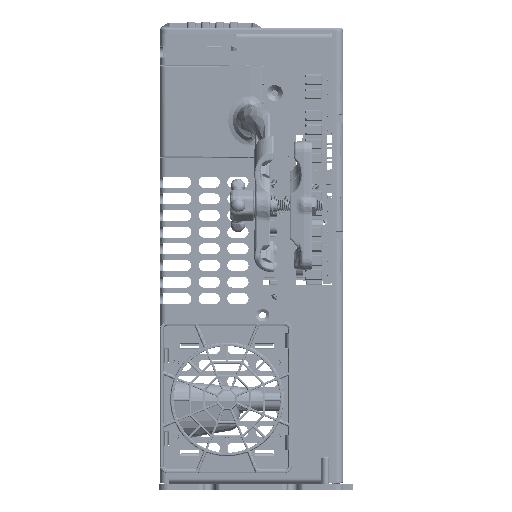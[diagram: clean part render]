
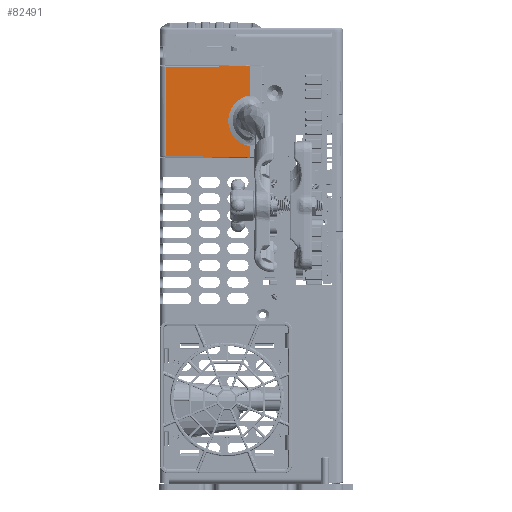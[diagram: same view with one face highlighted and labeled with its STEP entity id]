
A CAD part, front view. The second image highlights one B-rep face of the part: STEP entity #82491.
In plain terms, the highlighted planar face has unit normal (-0.018, -1, 0) as drawn and (-0.017, 1, 0) by its records, which use the part's own axes.
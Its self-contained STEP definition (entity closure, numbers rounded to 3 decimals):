
#68764=CARTESIAN_POINT('',(3.046,4.707,49.154));
#68783=CARTESIAN_POINT('',(3.046,4.707,
0.846));
#69347=DIRECTION('',(0.,0.,1.));
#69348=VECTOR('',#69347,5.803);
#69349=CARTESIAN_POINT('',(48.5,5.5,43.677));
#69350=LINE('',#69349,#69348);
#69360=CARTESIAN_POINT('',(48.5,5.5,43.677));
#69405=CARTESIAN_POINT('',(48.5,5.5,16.323));
#69416=DIRECTION('',(0.,0.,1.));
#69417=VECTOR('',#69416,15.843);
#69418=CARTESIAN_POINT('',(48.5,5.5,
0.481));
#69419=LINE('',#69418,#69417);
#69455=DIRECTION('',(-1.,-0.017,-0.008));
#69456=VECTOR('',#69455,42.597);
#69457=CARTESIAN_POINT('',(45.635,5.45,49.496));
#69458=LINE('',#69457,#69456);
#69459=DIRECTION('',(0.,0.,-1.));
#69460=VECTOR('',#69459,48.308);
#69461=CARTESIAN_POINT('',(3.046,4.707,49.154));
#69462=LINE('',#69461,#69460);
#69463=DIRECTION('',(1.,0.017,-0.008));
#69464=VECTOR('',#69463,45.463);
#69465=CARTESIAN_POINT('',(3.046,4.707,
0.846));
#69466=LINE('',#69465,#69464);
#69467=CARTESIAN_POINT('',(46.899,5.472,16.565));
#69468=CARTESIAN_POINT('',(47.161,5.477,16.488));
#69469=CARTESIAN_POINT('',(47.691,5.486,16.372));
#69470=CARTESIAN_POINT('',(48.229,5.495,16.327));
#69471=CARTESIAN_POINT('',(48.5,5.5,16.323));
#69473=CARTESIAN_POINT('',(46.899,5.472,43.435));
#69474=CARTESIAN_POINT('',(46.378,5.463,43.282));
#69475=CARTESIAN_POINT('',(45.399,5.446,42.929));
#69476=CARTESIAN_POINT('',(44.138,5.424,42.317));
#69477=CARTESIAN_POINT('',(42.982,5.404,41.615));
#69478=CARTESIAN_POINT('',(41.881,5.384,40.79));
#69479=CARTESIAN_POINT('',(40.859,5.367,39.853));
#69480=CARTESIAN_POINT('',(39.947,5.351,38.833));
#69481=CARTESIAN_POINT('',(39.147,5.337,37.741));
#69482=CARTESIAN_POINT('',(38.457,5.325,36.583));
#69483=CARTESIAN_POINT('',(37.883,5.315,35.366));
#69484=CARTESIAN_POINT('',(37.43,5.307,34.103));
#69485=CARTESIAN_POINT('',(37.1,5.301,32.806));
#69486=CARTESIAN_POINT('',(36.895,5.297,31.486));
#69487=CARTESIAN_POINT('',(36.817,5.296,30.153));
#69488=CARTESIAN_POINT('',(36.866,5.297,28.817));
#69489=CARTESIAN_POINT('',(37.042,5.3,27.493));
#69490=CARTESIAN_POINT('',(37.343,5.305,26.191));
#69491=CARTESIAN_POINT('',(37.768,5.313,24.92));
#69492=CARTESIAN_POINT('',(38.315,5.322,23.692));
#69493=CARTESIAN_POINT('',(38.976,5.334,22.522));
#69494=CARTESIAN_POINT('',(39.75,5.347,21.416));
#69495=CARTESIAN_POINT('',(40.639,5.363,20.376));
#69496=CARTESIAN_POINT('',(41.628,5.38,19.426));
#69497=CARTESIAN_POINT('',(42.683,5.398,18.594));
#69498=CARTESIAN_POINT('',(43.854,5.419,17.838));
#69499=CARTESIAN_POINT('',(45.217,5.443,17.143));
#69500=CARTESIAN_POINT('',(46.308,5.462,16.738));
#69501=CARTESIAN_POINT('',(46.899,5.472,16.565));
#69503=CARTESIAN_POINT('',(48.5,5.5,43.677));
#69504=CARTESIAN_POINT('',(48.234,5.495,43.673));
#69505=CARTESIAN_POINT('',(47.702,5.486,43.63));
#69506=CARTESIAN_POINT('',(47.167,5.477,43.513));
#69507=CARTESIAN_POINT('',(46.899,5.472,43.435));
#69509=CARTESIAN_POINT('',(48.5,5.5,49.48));
#69510=CARTESIAN_POINT('',(47.545,5.483,49.499));
#69511=CARTESIAN_POINT('',(46.59,5.467,49.504));
#69512=CARTESIAN_POINT('',(45.635,5.45,49.496));
#80459=VERTEX_POINT('',#69360);
#80474=VERTEX_POINT('',#69405);
#80480=VERTEX_POINT('',#69507);
#80481=VERTEX_POINT('',#69501);
#80700=VERTEX_POINT('',#68764);
#80703=CARTESIAN_POINT('',(45.635,5.45,49.496));
#80704=VERTEX_POINT('',#80703);
#80705=CARTESIAN_POINT('',(48.5,5.5,49.48));
#80706=VERTEX_POINT('',#80705);
#80718=VERTEX_POINT('',#68783);
#80719=CARTESIAN_POINT('',(48.5,5.5,
0.481));
#80720=VERTEX_POINT('',#80719);
#82471=CARTESIAN_POINT('',(48.5,5.5,0.));
#82472=DIRECTION('',(-0.017,1.,0.));
#82473=DIRECTION('',(0.,0.,1.));
#82474=AXIS2_PLACEMENT_3D('',#82471,#82472,#82473);
#82475=PLANE('',#82474);
#82476=ORIENTED_EDGE('',*,*,#82465,.T.);
#82477=ORIENTED_EDGE('',*,*,#81434,.T.);
#82479=ORIENTED_EDGE('',*,*,#82478,.T.);
#82480=ORIENTED_EDGE('',*,*,#82395,.T.);
#82482=ORIENTED_EDGE('',*,*,#82481,.F.);
#82484=ORIENTED_EDGE('',*,*,#82483,.F.);
#82486=ORIENTED_EDGE('',*,*,#82485,.F.);
#82487=ORIENTED_EDGE('',*,*,#82379,.T.);
#82488=ORIENTED_EDGE('',*,*,#82452,.T.);
#82489=EDGE_LOOP('',(#82476,#82477,#82479,#82480,#82482,#82484,#82486,#82487,
#82488));
#82490=FACE_OUTER_BOUND('',#82489,.F.);
#82491=ADVANCED_FACE('',(#82490),#82475,.T.);
#69472=B_SPLINE_CURVE_WITH_KNOTS('',3,(#69467,#69468,#69469,#69470,#69471),
.UNSPECIFIED.,.F.,.F.,(4,1,4),(0.,0.5,1.),.UNSPECIFIED.);
#69502=B_SPLINE_CURVE_WITH_KNOTS('',3,(#69473,#69474,#69475,#69476,#69477,
#69478,#69479,#69480,#69481,#69482,#69483,#69484,#69485,#69486,#69487,#69488,
#69489,#69490,#69491,#69492,#69493,#69494,#69495,#69496,#69497,#69498,#69499,
#69500,#69501),.UNSPECIFIED.,.F.,.F.,(4,1,1,1,1,1,1,1,1,1,1,1,1,1,1,1,1,1,1,1,1,
1,1,1,1,1,4),(0.,0.038,0.077,0.115,
0.154,0.192,0.231,0.269,
0.308,0.346,0.385,0.423,
0.462,0.5,0.538,0.577,0.615,
0.654,0.692,0.731,0.769,
0.808,0.846,0.885,0.923,
0.962,1.),.UNSPECIFIED.);
#69508=B_SPLINE_CURVE_WITH_KNOTS('',3,(#69503,#69504,#69505,#69506,#69507),
.UNSPECIFIED.,.F.,.F.,(4,1,4),(0.,0.5,1.),.UNSPECIFIED.);
#69513=B_SPLINE_CURVE_WITH_KNOTS('',3,(#69509,#69510,#69511,#69512),
.UNSPECIFIED.,.F.,.F.,(4,4),(0.,1.),.UNSPECIFIED.);
#81434=EDGE_CURVE('',#80700,#80718,#69462,.T.);
#82379=EDGE_CURVE('',#80459,#80706,#69350,.T.);
#82395=EDGE_CURVE('',#80720,#80474,#69419,.T.);
#82452=EDGE_CURVE('',#80706,#80704,#69513,.T.);
#82465=EDGE_CURVE('',#80704,#80700,#69458,.T.);
#82478=EDGE_CURVE('',#80718,#80720,#69466,.T.);
#82481=EDGE_CURVE('',#80481,#80474,#69472,.T.);
#82483=EDGE_CURVE('',#80480,#80481,#69502,.T.);
#82485=EDGE_CURVE('',#80459,#80480,#69508,.T.);
